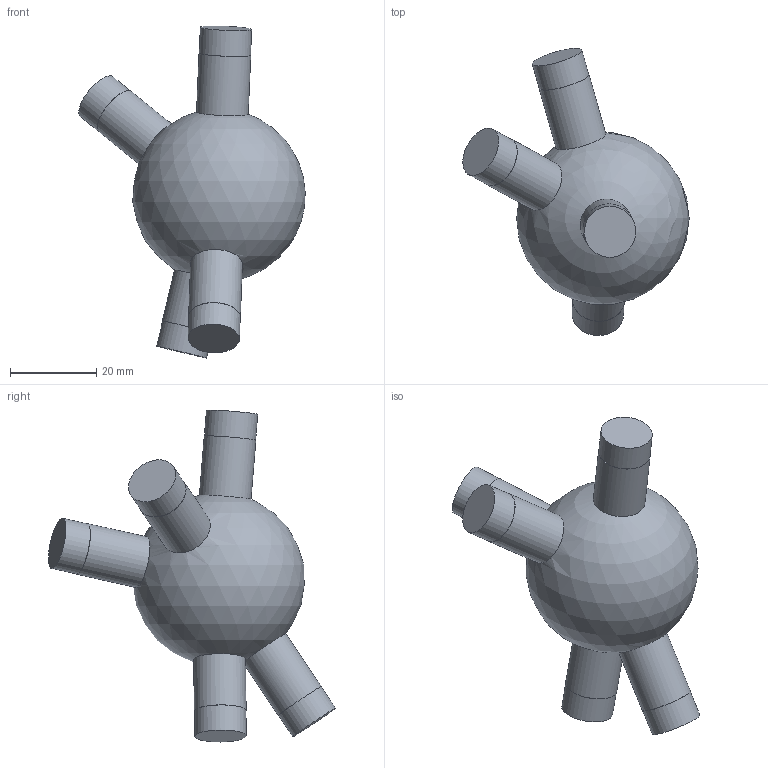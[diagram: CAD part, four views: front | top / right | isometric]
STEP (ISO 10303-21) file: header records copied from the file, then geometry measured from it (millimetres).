
FILE_DESCRIPTION(('Open CASCADE Model'),'2;1');
FILE_NAME('Open CASCADE Shape Model','2026-10-21T12:47:57',('Author'),( 'Open CASCADE'),'Open CASCADE STEP processor 7.9','Open CASCADE 7.9' ,'Unknown');
FILE_SCHEMA(('AUTOMOTIVE_DESIGN { 1 0 10303 214 1 1 1 1 }'));
Length unit declared in the file: millimetre
Products named in the file (1): Open CASCADE STEP translator 7.9 87
Bounding box: 52.4 x 66.46 x 76.87 mm (x, y, z)
Volume: 44478.1 mm3; surface area: 8765.8 mm2
Topology: 1 solids, 1 shells, 21 faces, 37 edges, 25 vertices
Faces by surface type: cylinder 10, plane 10, sphere 1
Full cylindrical faces by diameter (mm): 11.9 x5, 12 x5
Entity records: 1543 total; most frequent: CARTESIAN_POINT 710, DIRECTION 169, ORIENTED_EDGE 74, PCURVE 74, DEFINITIONAL_REPRESENTATION 74, LINE 56, VECTOR 56, AXIS2_PLACEMENT_3D 49
